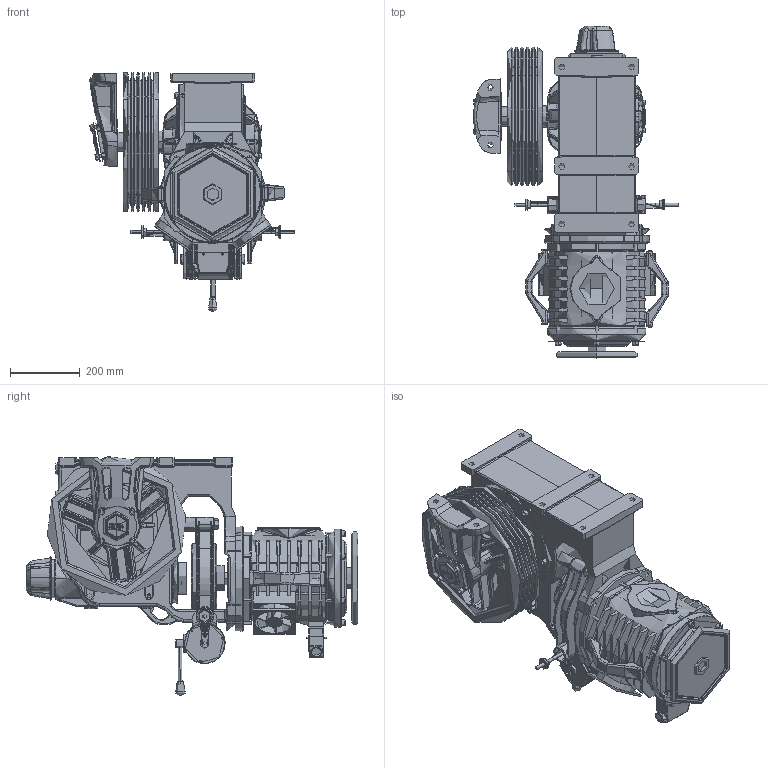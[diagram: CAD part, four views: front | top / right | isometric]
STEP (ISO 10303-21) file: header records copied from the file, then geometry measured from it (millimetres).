
FILE_DESCRIPTION (( 'STEP AP214' ), '1' );
FILE_NAME ('ST90120.STEP', '2026-01-16T11:18:29', ( '' ), ( '' ), 'SwSTEP 2.0', 'SolidWorks 2023', '' );
FILE_SCHEMA (( 'AUTOMOTIVE_DESIGN' ));
Length unit declared in the file: millimetre
Products named in the file (1): ST90120
Bounding box: 586.99 x 949.45 x 683.09 mm (x, y, z)
Topology: 63 solids, 75 shells, 5724 faces, 13775 edges, 8353 vertices
Faces by surface type: bspline 1599, cylinder 1594, plane 1538, torus 487, cone 448, sphere 58
Full cylindrical faces by diameter (mm): 20 x3
Entity records: 223437 total; most frequent: CARTESIAN_POINT 103119, ORIENTED_EDGE 27330, DIRECTION 22017, EDGE_CURVE 13665, AXIS2_PLACEMENT_3D 8895, VERTEX_POINT 8338, EDGE_LOOP 6227, ADVANCED_FACE 5724
